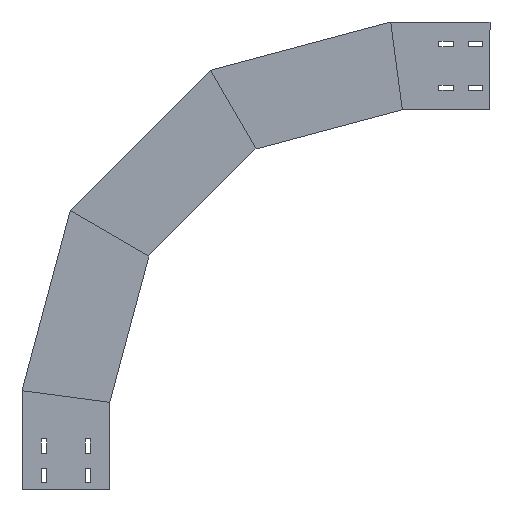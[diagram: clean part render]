
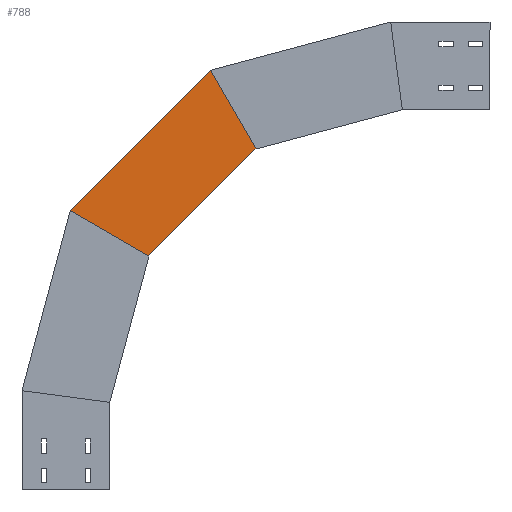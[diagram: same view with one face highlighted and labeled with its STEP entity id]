
A CAD part, left-side view. The second image highlights one B-rep face of the part: STEP entity #788.
In plain terms, the highlighted planar face has unit normal (-1, 0, 0) as drawn and (1, 0, 0) by its records, which use the part's own axes.
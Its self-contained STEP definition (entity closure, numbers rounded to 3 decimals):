
#259 = VECTOR ( 'NONE', #1394, 1000. ) ;
#293 = CARTESIAN_POINT ( 'NONE',  ( 0., -172.529, 717.802 ) ) ;
#300 = CARTESIAN_POINT ( 'NONE',  ( 0., 67.452, 477.821 ) ) ;
#304 = EDGE_CURVE ( 'NONE', #1256, #793, #652, .T. ) ;
#331 = CARTESIAN_POINT ( 'NONE',  ( 0., -35.701, 368.842 ) ) ;
#383 = LINE ( 'NONE', #1346, #676 ) ;
#459 = ORIENTED_EDGE ( 'NONE', *, *, #1367, .F. ) ;
#472 = VERTEX_POINT ( 'NONE', #953 ) ;
#491 = VERTEX_POINT ( 'NONE', #621 ) ;
#529 = CARTESIAN_POINT ( 'NONE',  ( 0., -289.426, 515.33 ) ) ;
#608 = LINE ( 'NONE', #643, #2422 ) ;
#621 = CARTESIAN_POINT ( 'NONE',  ( 0., -67.034, 400.175 ) ) ;
#643 = CARTESIAN_POINT ( 'NONE',  ( 0., -35.701, 368.842 ) ) ;
#652 = LINE ( 'NONE', #2338, #259 ) ;
#676 = VECTOR ( 'NONE', #1123, 1000. ) ;
#697 = FACE_OUTER_BOUND ( 'NONE', #1046, .T. ) ;
#788 = ADVANCED_FACE ( 'NONE', ( #697 ), #2158, .T. ) ;
#793 = VERTEX_POINT ( 'NONE', #293 ) ;
#858 = ORIENTED_EDGE ( 'NONE', *, *, #2040, .T. ) ;
#935 = VECTOR ( 'NONE', #1144, 1000. ) ;
#953 = CARTESIAN_POINT ( 'NONE',  ( 0., -250.175, 583.315 ) ) ;
#988 = DIRECTION ( 'NONE',  ( 0., -0.707, 0.707 ) ) ;
#1046 = EDGE_LOOP ( 'NONE', ( #1181, #858, #1931, #459 ) ) ;
#1123 = DIRECTION ( 'NONE',  ( 0., -0.866, -0.5 ) ) ;
#1144 = DIRECTION ( 'NONE',  ( 0., -0.5, -0.866 ) ) ;
#1181 = ORIENTED_EDGE ( 'NONE', *, *, #304, .T. ) ;
#1256 = VERTEX_POINT ( 'NONE', #300 ) ;
#1258 = DIRECTION ( 'NONE',  ( 1., 0., 0. ) ) ;
#1346 = CARTESIAN_POINT ( 'NONE',  ( 0., -129.979, 363.834 ) ) ;
#1367 = EDGE_CURVE ( 'NONE', #1256, #491, #383, .T. ) ;
#1394 = DIRECTION ( 'NONE',  ( 0., -0.707, 0.707 ) ) ;
#1596 = EDGE_CURVE ( 'NONE', #491, #472, #608, .T. ) ;
#1812 = DIRECTION ( 'NONE',  ( 0., 0., -1. ) ) ;
#1821 = AXIS2_PLACEMENT_3D ( 'NONE', #331, #1258, #1812 ) ;
#1931 = ORIENTED_EDGE ( 'NONE', *, *, #1596, .F. ) ;
#2040 = EDGE_CURVE ( 'NONE', #793, #472, #2267, .T. ) ;
#2158 = PLANE ( 'NONE',  #1821 ) ;
#2267 = LINE ( 'NONE', #529, #935 ) ;
#2338 = CARTESIAN_POINT ( 'NONE',  ( 0., 70.365, 474.908 ) ) ;
#2422 = VECTOR ( 'NONE', #988, 1000. ) ;
